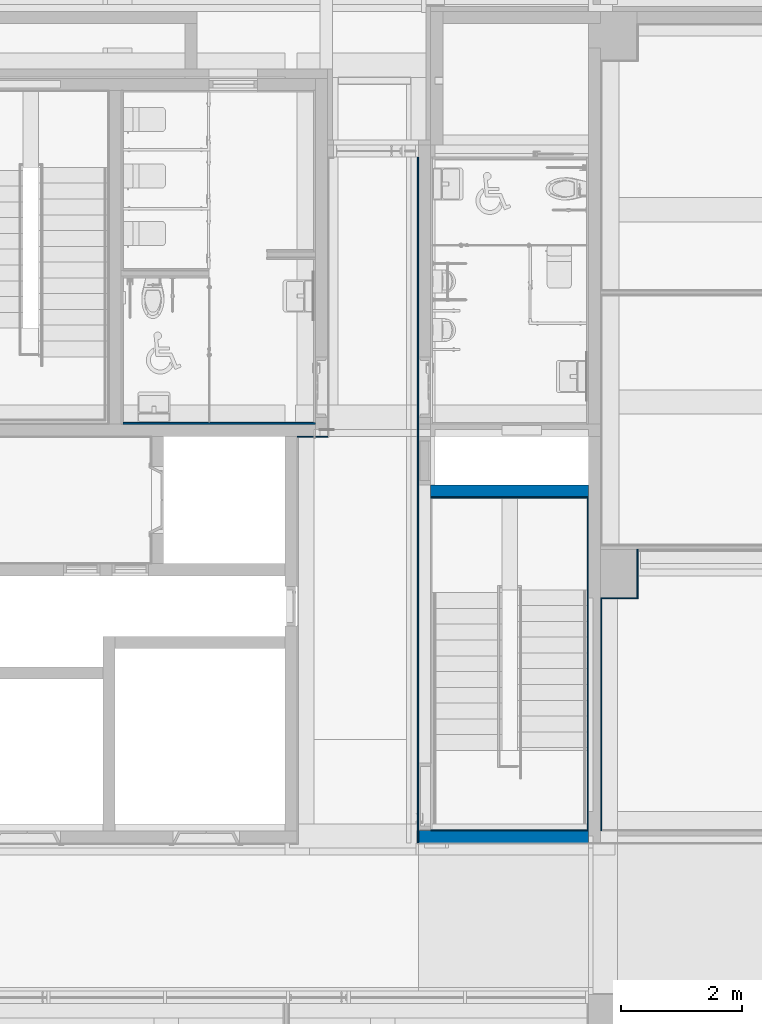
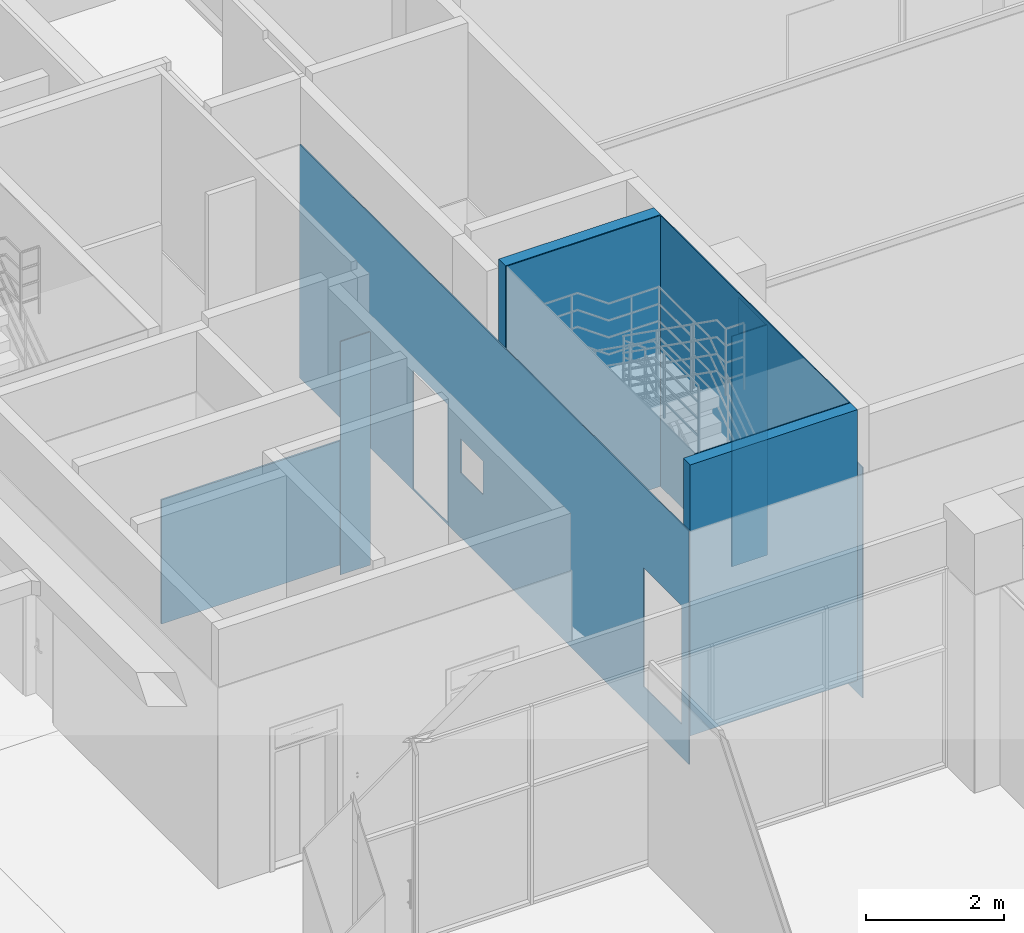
# One storey, part 45 of 100: 11 walls, 3 openings.
"""IFC2X3 building model written with IfcOpenShell, lengths in millimetres."""

from ifc_helpers import new_model, entity, si_unit, converted_unit, derived_unit, direction, frame, frame_2d, origin, origin_2d_with_axis, place, context, subcontext, project, spatial, polyline, rectangle, extrude, clip, bounded_halfspace, material, layer, layer_set, layer_usage, type_object, element, save


model = new_model("IFC2X3")

# Units and contexts
model_context = context("Model", 3, precision=0.01, world=origin(), true_north=direction((6.123031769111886e-17, 1.0)))
body_context = subcontext(model_context, "Body", "Model", "MODEL_VIEW")
ifc_project = project(units=[si_unit("LENGTHUNIT", "METRE", prefix="MILLI"), si_unit("AREAUNIT", "SQUARE_METRE"), si_unit("VOLUMEUNIT", "CUBIC_METRE"), converted_unit("PLANEANGLEUNIT", "DEGREE", entity("IfcRatioMeasure", 0.017453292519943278), si_unit("PLANEANGLEUNIT", "RADIAN"), dimensions=[0, 0, 0, 0, 0, 0, 0]), si_unit("MASSUNIT", "GRAM", prefix="KILO"), derived_unit("MASSDENSITYUNIT", [(si_unit("MASSUNIT", "GRAM", prefix="KILO"), 1), (si_unit("LENGTHUNIT", "METRE"), -3)]), derived_unit("MOMENTOFINERTIAUNIT", [(si_unit("LENGTHUNIT", "METRE"), 4)]), si_unit("TIMEUNIT", "SECOND"), si_unit("FREQUENCYUNIT", "HERTZ"), si_unit("THERMODYNAMICTEMPERATUREUNIT", "DEGREE_CELSIUS"), derived_unit("THERMALTRANSMITTANCEUNIT", [(si_unit("MASSUNIT", "GRAM", prefix="KILO"), 1), (si_unit("THERMODYNAMICTEMPERATUREUNIT", "KELVIN"), -1), (si_unit("TIMEUNIT", "SECOND"), -3)]), derived_unit("VOLUMETRICFLOWRATEUNIT", [(si_unit("LENGTHUNIT", "METRE"), 3), (si_unit("TIMEUNIT", "SECOND"), -1)]), derived_unit("MASSFLOWRATEUNIT", [(si_unit("MASSUNIT", "GRAM", prefix="KILO"), 1), (si_unit("TIMEUNIT", "SECOND"), -1)]), derived_unit("ROTATIONALFREQUENCYUNIT", [(si_unit("TIMEUNIT", "SECOND"), -1)]), si_unit("ELECTRICCURRENTUNIT", "AMPERE"), si_unit("ELECTRICVOLTAGEUNIT", "VOLT"), si_unit("POWERUNIT", "WATT"), si_unit("FORCEUNIT", "NEWTON", prefix="KILO"), si_unit("ILLUMINANCEUNIT", "LUX"), si_unit("LUMINOUSFLUXUNIT", "LUMEN"), si_unit("LUMINOUSINTENSITYUNIT", "CANDELA"), derived_unit("USERDEFINED", [(si_unit("MASSUNIT", "GRAM", prefix="KILO"), -1), (si_unit("LENGTHUNIT", "METRE"), -2), (si_unit("TIMEUNIT", "SECOND"), 3), (si_unit("LUMINOUSFLUXUNIT", "LUMEN"), 1)]), derived_unit("SOUNDPOWERUNIT", [(si_unit("MASSUNIT", "GRAM", prefix="KILO"), 1), (si_unit("LENGTHUNIT", "METRE"), 2), (si_unit("TIMEUNIT", "SECOND"), -3)]), derived_unit("SOUNDPRESSUREUNIT", [(si_unit("MASSUNIT", "GRAM", prefix="KILO"), 1), (si_unit("LENGTHUNIT", "METRE"), -1), (si_unit("TIMEUNIT", "SECOND"), -2)]), derived_unit("LINEARVELOCITYUNIT", [(si_unit("LENGTHUNIT", "METRE"), 1), (si_unit("TIMEUNIT", "SECOND"), -1)]), si_unit("PRESSUREUNIT", "PASCAL"), derived_unit("USERDEFINED", [(si_unit("LENGTHUNIT", "METRE"), -2), (si_unit("MASSUNIT", "GRAM", prefix="KILO"), 1), (si_unit("TIMEUNIT", "SECOND"), -2)]), derived_unit("LINEARFORCEUNIT", [(si_unit("MASSUNIT", "GRAM", prefix="KILO"), 1), (si_unit("LENGTHUNIT", "METRE"), 1), (si_unit("TIMEUNIT", "SECOND"), -2), (si_unit("LENGTHUNIT", "METRE"), -1)]), derived_unit("PLANARFORCEUNIT", [(si_unit("MASSUNIT", "GRAM", prefix="KILO"), 1), (si_unit("LENGTHUNIT", "METRE"), 1), (si_unit("TIMEUNIT", "SECOND"), -2), (si_unit("LENGTHUNIT", "METRE"), -2)])], contexts=[model_context])

# Site, building, storey
site_placement = place(None, frame((-14167.972527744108, -657.2125860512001, 0.0)))
site = spatial("IfcSite", under=ifc_project, at=site_placement, Name="Default", CompositionType="ELEMENT")
building_placement = place(site_placement, origin())
building = spatial("IfcBuilding", under=site, at=building_placement, Name="Sample Building", CompositionType="ELEMENT")
storey_placement = place(building_placement, origin())
storey = spatial("IfcBuildingStorey", under=building, at=storey_placement, Name="지상 1층", CompositionType="ELEMENT", Elevation=0.0)

# Walls
ifc_material_1 = material(Name="KBIMS-콘크리트")
ifc_layer_1 = layer(ifc_material_1, 200.0)
ifc_layer_set_1 = layer_set([ifc_layer_1], Name="기본 벽:WA111-철근콘크리트구조 벽 200mm_CW1")
ifc_layer_usage_1 = layer_usage(ifc_layer_set_1, "AXIS2", "NEGATIVE", 100.0)
wall_type_1 = type_object("IfcWallType", Name="기본 벽:WA111-철근콘크리트구조 벽 200mm_CW1", PredefinedType="STANDARD", material=ifc_layer_set_1)
wall_1_placement = place(storey_placement, frame((37967.96379814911, 15657.212295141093, 0.0)))
element("IfcWallStandardCase", 1, at=wall_1_placement, inside=storey, type_object=wall_type_1, material=ifc_layer_usage_1, Name="기본 벽:WA111-철근콘크리트구조 벽 200mm_CW1", ObjectType="기본 벽:WA111-철근콘크리트구조 벽 200mm_CW1", context=body_context, shape_type="Clipping", body=[
    clip(extrude(rectangle(XDim=2800.000000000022, YDim=200.0, at=frame_2d((1400.000000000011, -1.0871303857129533e-12), x_axis=(1.0, 0.0))), origin(), (0.0, 0.0, 1.0), 4800.000000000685), bounded_halfspace(frame((2800.0, -100.0, 0.0), z_axis=(0.0, 0.0, 1.0), x_axis=(-1.0, 0.0, 0.0)), True, frame((2800.0, -100.0, 0.0), z_axis=(0.0, 0.0, 1.0), x_axis=(-1.0, 0.0, 0.0)), polyline([(0.0, 0.0), (0.0, -60960.0), (792480.0, -60960.0), (853440.0, -60960.0), (853440.0, 2.464605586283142e-09), (0.0, 0.0)]))),
])
ifc_layer_usage_2 = layer_usage(ifc_layer_set_1, "AXIS2", "NEGATIVE", 100.0)
wall_2_placement = place(storey_placement, frame((38167.9637981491, 21357.212291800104, 0.0)))
element("IfcWallStandardCase", 2, at=wall_2_placement, inside=storey, type_object=wall_type_1, material=ifc_layer_usage_2, Name="기본 벽:WA111-철근콘크리트구조 벽 200mm_CW1", ObjectType="기본 벽:WA111-철근콘크리트구조 벽 200mm_CW1", context=body_context, shape_type="SweptSolid", body=[
    extrude(rectangle(XDim=2600.000000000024, YDim=199.99999999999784, at=frame_2d((1300.000000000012, -1.6342482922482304e-13), x_axis=(-1.0, 0.0))), origin(), (0.0, 0.0, 1.0), 4800.000000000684),
])

# Wall, openings
ifc_material_2 = material(Name="WA611-수성페인트 (내부) 벽 (3회)")
ifc_layer_2 = layer(ifc_material_2, 1.0)
ifc_material_3 = material(Name="WA551-시멘트모르타르 (내부) 벽 18mm")
ifc_layer_3 = layer(ifc_material_3, 16.0)
ifc_material_4 = material(Name="WA555-콘크리트면정리 벽 (내부)")
ifc_layer_4 = layer(ifc_material_4, 1.0)
ifc_layer_set_2 = layer_set([ifc_layer_2, ifc_layer_3, ifc_layer_4], Name="기본 벽:A1-32-06A-콘크리트면정리, 시멘트모르타르(미장용), 수성페인트(내부) (18mm)")
ifc_layer_usage_3 = layer_usage(ifc_layer_set_2, "AXIS2", "NEGATIVE", 9.000000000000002)
wall_type_2 = type_object("IfcWallType", Name="기본 벽:A1-32-06A-콘크리트면정리, 시멘트모르타르(미장용), 수성페인트(내부) (18mm)", PredefinedType="STANDARD", material=ifc_layer_set_2)
wall_3_placement = place(storey_placement, frame((37958.96379814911, 15557.194837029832, -500.0), z_axis=(0.0, 0.0, 1.0), x_axis=(0.0, 1.0, 0.0)))
wall_3 = element("IfcWallStandardCase", 3, at=wall_3_placement, inside=storey, type_object=wall_type_2, material=ifc_layer_usage_3, Name="기본 벽:A1-32-06A-콘크리트면정리, 시멘트모르타르(미장용), 수성페인트(내부) (18mm)", ObjectType="기본 벽:A1-32-06A-콘크리트면정리, 시멘트모르타르(미장용), 수성페인트(내부) (18mm)", context=body_context, shape_type="SweptSolid", body=[
    extrude(rectangle(XDim=11300.017458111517, YDim=18.00000000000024, at=frame_2d((5650.0087290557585, -2.1662671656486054e-12), x_axis=(-1.0, 0.0))), origin(), (0.0, 0.0, 1.0), 4130.000000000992),
])
opening_1_placement = place(wall_3_placement, origin())
element("IfcOpeningElement", 4, at=opening_1_placement, cuts=wall_3, Name="기본 벽:A1-32-06A-콘크리트면정리, 시멘트모르타르(미장용), 수성페인트(내부) (18mm)", ObjectType="Opening", context=body_context, shape_type="SweptSolid", body=[
    extrude(rectangle(XDim=2099.999999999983, YDim=1099.999999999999, at=frame_2d((1.0800249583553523e-12, 0.0), x_axis=(0.0, 1.0))), frame((767.9653706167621, -1733.0, 1630.0), z_axis=(0.0, 1.0, 0.0), x_axis=(-1.0, 0.0, 0.0)), (0.0, 0.0, 1.0), 3048.0),
])
opening_2_placement = place(wall_3_placement, origin())
element("IfcOpeningElement", 5, at=opening_2_placement, cuts=wall_3, Name="기본 벽:A1-32-06A-콘크리트면정리, 시멘트모르타르(미장용), 수성페인트(내부) (18mm)", ObjectType="Opening", context=body_context, shape_type="SweptSolid", body=[
    extrude(rectangle(XDim=600.0, YDim=649.9999999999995, at=frame_2d((0.0, 0.0), x_axis=(0.0, 1.0))), frame((6299.982836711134, -1733.0, 1450.0), z_axis=(0.0, 1.0, 0.0), x_axis=(-1.0, 0.0, 0.0)), (0.0, 0.0, 1.0), 3048.0),
])
opening_3_placement = place(wall_3_placement, origin())
element("IfcOpeningElement", 6, at=opening_3_placement, cuts=wall_3, Name="기본 벽:A1-32-06A-콘크리트면정리, 시멘트모르타르(미장용), 수성페인트(내부) (18mm)", ObjectType="Opening", context=body_context, shape_type="SweptSolid", body=[
    extrude(rectangle(XDim=2099.999999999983, YDim=999.999999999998, at=origin_2d_with_axis()), frame((7506.477981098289, -1533.0, 1080.0), z_axis=(0.0, 1.0, 0.0), x_axis=(0.0, 0.0, 1.0)), (0.0, 0.0, 1.0), 3048.0),
])

# Walls
ifc_layer_usage_4 = layer_usage(ifc_layer_set_2, "AXIS2", "NEGATIVE", 9.000000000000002)
wall_4_placement = place(storey_placement, frame((36467.96379814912, 22248.194894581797, -500.0), z_axis=(0.0, 0.0, 1.0), x_axis=(-1.0, 0.0, 0.0)))
element("IfcWallStandardCase", 7, at=wall_4_placement, inside=storey, type_object=wall_type_2, material=ifc_layer_usage_4, Name="기본 벽:A1-32-06A-콘크리트면정리, 시멘트모르타르(미장용), 수성페인트(내부) (18mm)", ObjectType="기본 벽:A1-32-06A-콘크리트면정리, 시멘트모르타르(미장용), 수성페인트(내부) (18mm)", context=body_context, shape_type="SweptSolid", body=[
    extrude(rectangle(XDim=499.99130701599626, YDim=18.00000000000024, at=frame_2d((249.99565350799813, -2.1662671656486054e-12), x_axis=(-1.0, 0.0))), origin(), (0.0, 0.0, 1.0), 4130.000000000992),
])
ifc_layer_usage_5 = layer_usage(ifc_layer_set_2, "AXIS2", "NEGATIVE", 9.000000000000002)
wall_5_placement = place(storey_placement, frame((40976.963798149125, 19594.712307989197, -500.0), z_axis=(0.0, 0.0, 1.0), x_axis=(0.0, -1.0, 0.0)))
element("IfcWallStandardCase", 8, at=wall_5_placement, inside=storey, type_object=wall_type_2, material=ifc_layer_usage_5, Name="기본 벽:A1-32-06A-콘크리트면정리, 시멘트모르타르(미장용), 수성페인트(내부) (18mm)", ObjectType="기본 벽:A1-32-06A-콘크리트면정리, 시멘트모르타르(미장용), 수성페인트(내부) (18mm)", context=body_context, shape_type="SweptSolid", body=[
    extrude(rectangle(XDim=3837.500012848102, YDim=17.999999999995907, at=frame_2d((1918.750006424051, 4.263256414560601e-14), x_axis=(-1.0, 0.0))), origin(), (0.0, 0.0, 1.0), 4080.0000000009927),
])
ifc_layer_usage_6 = layer_usage(ifc_layer_set_2, "AXIS2", "POSITIVE", -9.000000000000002)
wall_6_placement = place(storey_placement, frame((40985.963798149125, 19585.712307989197, -500.0)))
element("IfcWallStandardCase", 9, at=wall_6_placement, inside=storey, type_object=wall_type_2, material=ifc_layer_usage_6, Name="기본 벽:A1-32-06A-콘크리트면정리, 시멘트모르타르(미장용), 수성페인트(내부) (18mm)", ObjectType="기본 벽:A1-32-06A-콘크리트면정리, 시멘트모르타르(미장용), 수성페인트(내부) (18mm)", context=body_context, shape_type="SweptSolid", body=[
    extrude(rectangle(XDim=600.0086732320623, YDim=18.00000000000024, at=frame_2d((300.00433661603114, -2.1662671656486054e-12), x_axis=(-1.0, 0.0))), origin(), (0.0, 0.0, 1.0), 4080.0000000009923),
])
ifc_layer_usage_7 = layer_usage(ifc_layer_set_2, "AXIS2", "POSITIVE", -9.000000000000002)
wall_7_placement = place(storey_placement, frame((41576.97247138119, 19594.712307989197, -500.0), z_axis=(0.0, 0.0, 1.0), x_axis=(0.0, 1.0, 0.0)))
element("IfcWallStandardCase", 10, at=wall_7_placement, inside=storey, type_object=wall_type_2, material=ifc_layer_usage_7, Name="기본 벽:A1-32-06A-콘크리트면정리, 시멘트모르타르(미장용), 수성페인트(내부) (18mm)", ObjectType="기본 벽:A1-32-06A-콘크리트면정리, 시멘트모르타르(미장용), 수성페인트(내부) (18mm)", context=body_context, shape_type="SweptSolid", body=[
    extrude(rectangle(XDim=800.0, YDim=17.999999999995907, at=frame_2d((400.0, 0.0), x_axis=(-1.0, 0.0))), origin(), (0.0, 0.0, 1.0), 4080.0000000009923),
])
ifc_layer_usage_8 = layer_usage(ifc_layer_set_2, "AXIS2", "POSITIVE", -9.000000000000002)
wall_8_placement = place(storey_placement, frame((38167.963798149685, 21248.19487505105, 0.0)))
element("IfcWallStandardCase", 11, at=wall_8_placement, inside=storey, type_object=wall_type_2, material=ifc_layer_usage_8, Name="기본 벽:A1-32-06A-콘크리트면정리, 시멘트모르타르(미장용), 수성페인트(내부) (18mm)", ObjectType="기본 벽:A1-32-06A-콘크리트면정리, 시멘트모르타르(미장용), 수성페인트(내부) (18mm)", context=body_context, shape_type="SweptSolid", body=[
    extrude(rectangle(XDim=2582.0086732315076, YDim=18.00000000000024, at=frame_2d((1291.0043366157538, -2.1662671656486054e-12), x_axis=(-1.0, 0.0))), origin(), (0.0, 0.0, 1.0), 4800.000000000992),
])
ifc_layer_usage_9 = layer_usage(ifc_layer_set_2, "AXIS2", "POSITIVE", -9.000000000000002)
wall_9_placement = place(storey_placement, frame((40767.97247138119, 15766.194878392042, 0.0), z_axis=(0.0, 0.0, 1.0), x_axis=(-1.0, 0.0, 0.0)))
element("IfcWallStandardCase", 12, at=wall_9_placement, inside=storey, type_object=wall_type_2, material=ifc_layer_usage_9, Name="기본 벽:A1-32-06A-콘크리트면정리, 시멘트모르타르(미장용), 수성페인트(내부) (18mm)", ObjectType="기본 벽:A1-32-06A-콘크리트면정리, 시멘트모르타르(미장용), 수성페인트(내부) (18mm)", context=body_context, shape_type="SweptSolid", body=[
    extrude(rectangle(XDim=2600.0086732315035, YDim=18.000000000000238, at=frame_2d((1300.0043366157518, 0.0), x_axis=(-1.0, 0.0))), origin(), (0.0, 0.0, 1.0), 4800.000000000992),
])
ifc_layer_usage_10 = layer_usage(ifc_layer_set_2, "AXIS2", "POSITIVE", -9.000000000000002)
wall_10_placement = place(storey_placement, frame((40758.972471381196, 21257.19487505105, 0.0), z_axis=(0.0, 0.0, 1.0), x_axis=(0.0, -1.0, 0.0)))
element("IfcWallStandardCase", 13, at=wall_10_placement, inside=storey, type_object=wall_type_2, material=ifc_layer_usage_10, Name="기본 벽:A1-32-06A-콘크리트면정리, 시멘트모르타르(미장용), 수성페인트(내부) (18mm)", ObjectType="기본 벽:A1-32-06A-콘크리트면정리, 시멘트모르타르(미장용), 수성페인트(내부) (18mm)", context=body_context, shape_type="SweptSolid", body=[
    extrude(rectangle(XDim=5481.999996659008, YDim=17.999999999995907, at=frame_2d((2740.999998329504, 0.0), x_axis=(-1.0, 0.0))), origin(), (0.0, 0.0, 1.0), 4800.000000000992),
])
ifc_material_5 = material(Name="WA352-도기질타일 벽 200x200")
ifc_layer_5 = layer(ifc_material_5, 8.0)
ifc_material_6 = material(Name="WA551-시멘트모르타르 (내부) 벽 22mm")
ifc_layer_6 = layer(ifc_material_6, 22.0)
ifc_layer_set_3 = layer_set([ifc_layer_5, ifc_layer_6], Name="기본 벽:A1-33-01B-시멘트 모르타르, 도기질타일 (30mm)")
ifc_layer_usage_11 = layer_usage(ifc_layer_set_3, "AXIS2", "POSITIVE", -15.0)
wall_type_3 = type_object("IfcWallType", Name="기본 벽:A1-33-01B-시멘트 모르타르, 도기질타일 (30mm)", PredefinedType="STANDARD", material=ifc_layer_set_3)
wall_11_placement = place(storey_placement, frame((33097.98122724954, 22472.212311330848, -500.0)))
element("IfcWallStandardCase", 14, at=wall_11_placement, inside=storey, type_object=wall_type_3, material=ifc_layer_usage_11, Name="기본 벽:A1-33-01B-시멘트 모르타르, 도기질타일 (30mm)", ObjectType="기본 벽:A1-33-01B-시멘트 모르타르, 도기질타일 (30mm)", context=body_context, shape_type="SweptSolid", body=[
    extrude(rectangle(XDim=3169.982570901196, YDim=30.00000000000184, at=frame_2d((1584.991285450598, 7.016609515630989e-13), x_axis=(-1.0, 0.0))), origin(), (0.0, 0.0, 1.0), 2200.0),
])

save(model, "model.ifc")
